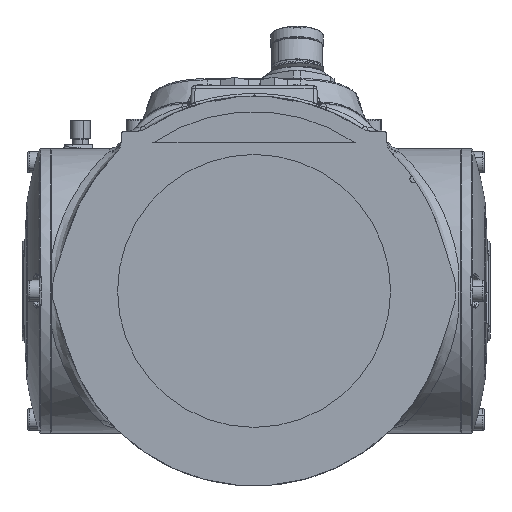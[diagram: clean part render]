
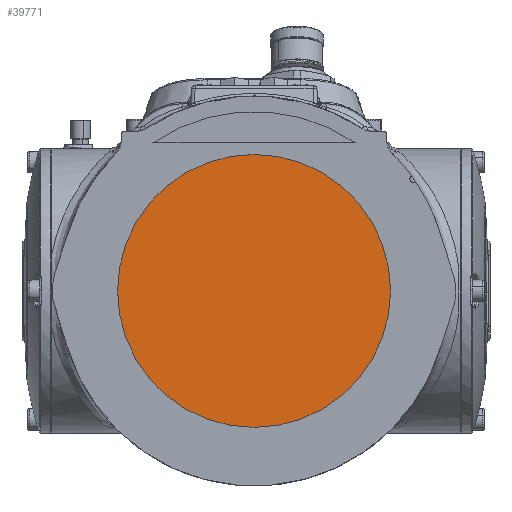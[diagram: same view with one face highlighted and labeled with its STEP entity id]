
A CAD part, front view. The second image highlights one B-rep face of the part: STEP entity #39771.
In plain terms, the highlighted planar face has unit normal (0, -1, 0).
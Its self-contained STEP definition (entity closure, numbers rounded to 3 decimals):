
#5000 = ORIENTED_EDGE ( 'NONE', *, *, #46876, .T. ) ;
#5356 = DIRECTION ( 'NONE',  ( 0., -1., 0. ) ) ;
#10995 = VERTEX_POINT ( 'NONE', #54328 ) ;
#11709 = PLANE ( 'NONE',  #48082 ) ;
#13464 = DIRECTION ( 'NONE',  ( 1., 0., 0. ) ) ;
#16453 = CARTESIAN_POINT ( 'NONE',  ( -35., 55.3, 375. ) ) ;
#20081 = AXIS2_PLACEMENT_3D ( 'NONE', #20191, #29722, #38060 ) ;
#20191 = CARTESIAN_POINT ( 'NONE',  ( 0., 55.3, 375. ) ) ;
#20814 = VERTEX_POINT ( 'NONE', #16453 ) ;
#24527 = EDGE_CURVE ( 'NONE', #20814, #10995, #49359, .T. ) ;
#29722 = DIRECTION ( 'NONE',  ( 0., -1., 0. ) ) ;
#29895 = DIRECTION ( 'NONE',  ( 0., -1., 0. ) ) ;
#32603 = EDGE_LOOP ( 'NONE', ( #5000, #57108 ) ) ;
#37185 = CIRCLE ( 'NONE', #20081, 35. ) ;
#37930 = CARTESIAN_POINT ( 'NONE',  ( 0., 55.3, 375. ) ) ;
#38060 = DIRECTION ( 'NONE',  ( 1., 0., 0. ) ) ;
#39771 = ADVANCED_FACE ( 'NONE', ( #43002 ), #11709, .T. ) ;
#43002 = FACE_OUTER_BOUND ( 'NONE', #32603, .T. ) ;
#46242 = CARTESIAN_POINT ( 'NONE',  ( 0., 55.3, 375. ) ) ;
#46876 = EDGE_CURVE ( 'NONE', #10995, #20814, #37185, .T. ) ;
#48082 = AXIS2_PLACEMENT_3D ( 'NONE', #37930, #29895, #48099 ) ;
#48099 = DIRECTION ( 'NONE',  ( 1., 0., 0. ) ) ;
#49359 = CIRCLE ( 'NONE', #57964, 35. ) ;
#54328 = CARTESIAN_POINT ( 'NONE',  ( 35., 55.3, 375. ) ) ;
#57108 = ORIENTED_EDGE ( 'NONE', *, *, #24527, .T. ) ;
#57964 = AXIS2_PLACEMENT_3D ( 'NONE', #46242, #5356, #13464 ) ;
